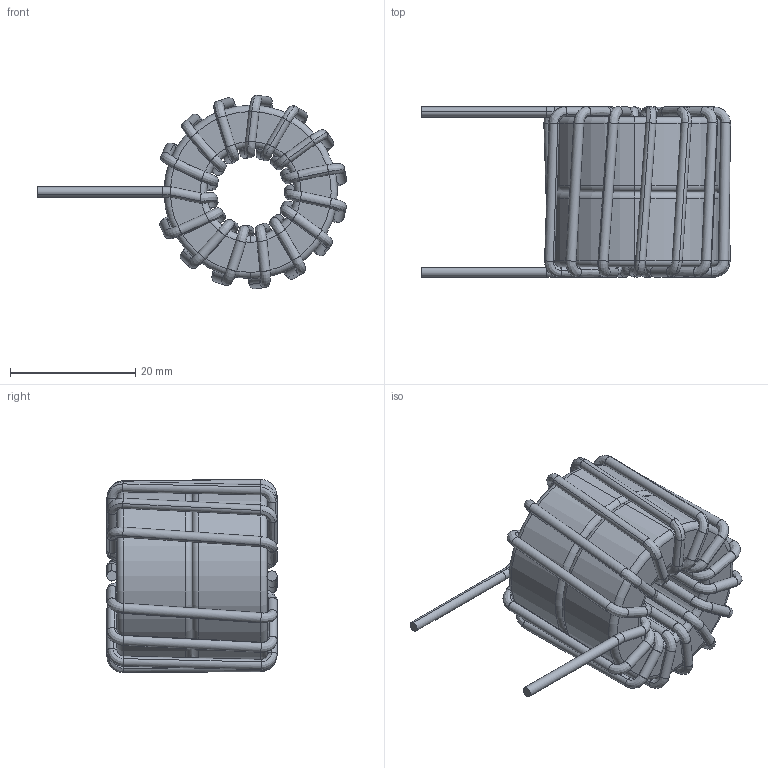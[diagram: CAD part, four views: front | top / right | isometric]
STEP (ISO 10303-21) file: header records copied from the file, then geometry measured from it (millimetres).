
FILE_DESCRIPTION (( 'STEP AP214' ), '1' );
FILE_NAME ('HF2702-700M-15.0AV REV.STEP', '2018-10-31T02:48:27', ( '' ), ( '' ), 'SwSTEP 2.0', 'SolidWorks 2015', '' );
FILE_SCHEMA (( 'AUTOMOTIVE_DESIGN' ));
Length unit declared in the file: millimetre
Products named in the file (1): HF2702-700M-15.0AV REV
Bounding box: 49.39 x 27.2 x 30.87 mm (x, y, z)
Volume: 12635.4 mm3; surface area: 9763.1 mm2
Topology: 5 solids, 5 shells, 276 faces, 548 edges, 282 vertices
Faces by surface type: bspline 236, torus 16, cylinder 14, plane 10
Entity records: 20318 total; most frequent: CARTESIAN_POINT 13669, ORIENTED_EDGE 1096, EDGE_CURVE 548, UNCERTAINTY_MEASURE_WITH_UNIT 283, MECHANICAL_DESIGN_GEOMETRIC_PRESENTATION_REPRESENTATION 282, SURFACE_STYLE_FILL_AREA 282, STYLED_ITEM 282, FILL_AREA_STYLE_COLOUR 282
